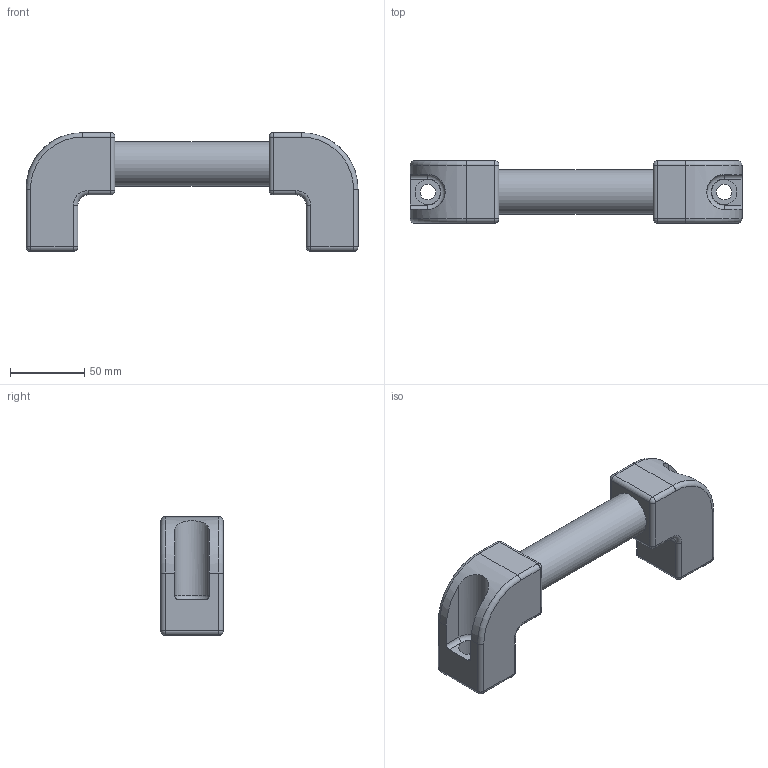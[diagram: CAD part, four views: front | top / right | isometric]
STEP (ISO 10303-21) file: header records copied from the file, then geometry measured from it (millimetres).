
FILE_DESCRIPTION( ('This file contains a STEP AP42 implementation' ,'as created by ZW3D STEP Interface translator.') ,'2;1' );
FILE_NAME( 'R30-200.stp' ,'26 817.1230 6', (''), ('ZWCAD Software Co.'), 'Version 1.0', 'ZW3D to STEP translator', '' );
FILE_SCHEMA(('AP242_MANAGED_MODEL_BASED_3D_ENGINEERING_MIM_LF { 1 0 10303 442 1 1 4 }'));
Length unit declared in the file: millimetre
Products named in the file (1): 0
Bounding box: 224 x 42 x 80 mm (x, y, z)
Volume: 242244.5 mm3; surface area: 69540.9 mm2
Topology: 3 solids, 3 shells, 104 faces, 216 edges, 122 vertices
Faces by surface type: cylinder 50, plane 28, sphere 16, torus 10
Full cylindrical faces by diameter (mm): 10.5 x2, 17 x2, 26 x1, 30 x3
Entity records: 2885 total; most frequent: DIRECTION 538, CARTESIAN_POINT 467, ORIENTED_EDGE 428, AXIS2_PLACEMENT_3D 219, EDGE_CURVE 214, VERTEX_POINT 120, CIRCLE 114, EDGE_LOOP 114
